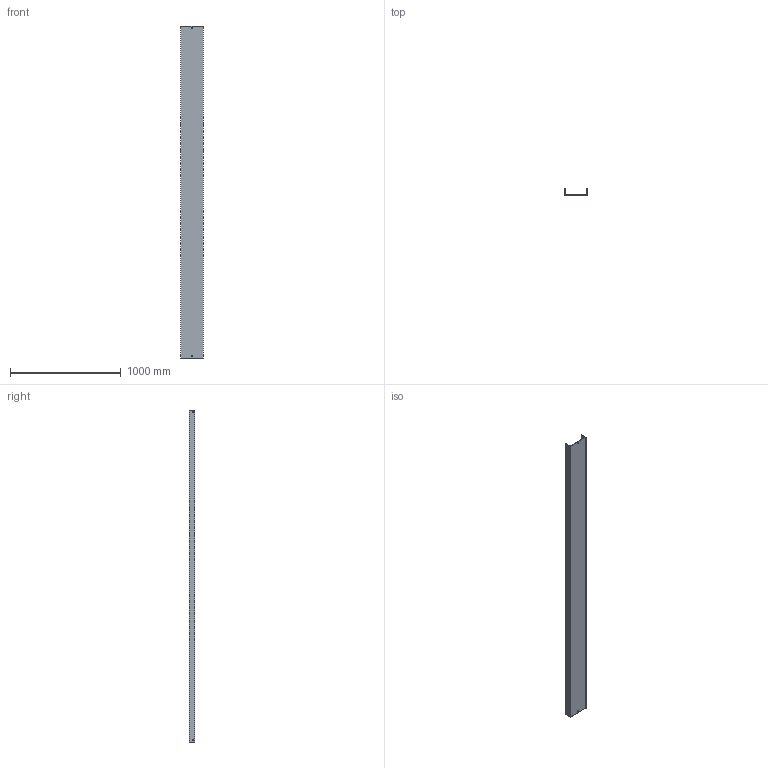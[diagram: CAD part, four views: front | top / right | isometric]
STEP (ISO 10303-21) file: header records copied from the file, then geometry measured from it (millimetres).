
FILE_DESCRIPTION (( 'STEP AP214' ), '1' );
FILE_NAME ('03B3B200.step', '2025-02-21T10:13:33', ( '' ), ( '' ), 'SwSTEP 2.0', 'SolidWorks 2023', '' );
FILE_SCHEMA (( 'AUTOMOTIVE_DESIGN' ));
Length unit declared in the file: millimetre
Products named in the file (1): 03B3B200
Bounding box: 204 x 52 x 3000 mm (x, y, z)
Volume: 3159110.5 mm3; surface area: 1829006 mm2
Topology: 1 solids, 1 shells, 34 faces, 96 edges, 64 vertices
Faces by surface type: plane 34
Entity records: 1127 total; most frequent: CARTESIAN_POINT 195, ORIENTED_EDGE 192, DIRECTION 166, VECTOR 96, LINE 96, EDGE_CURVE 96, VERTEX_POINT 64, EDGE_LOOP 46
